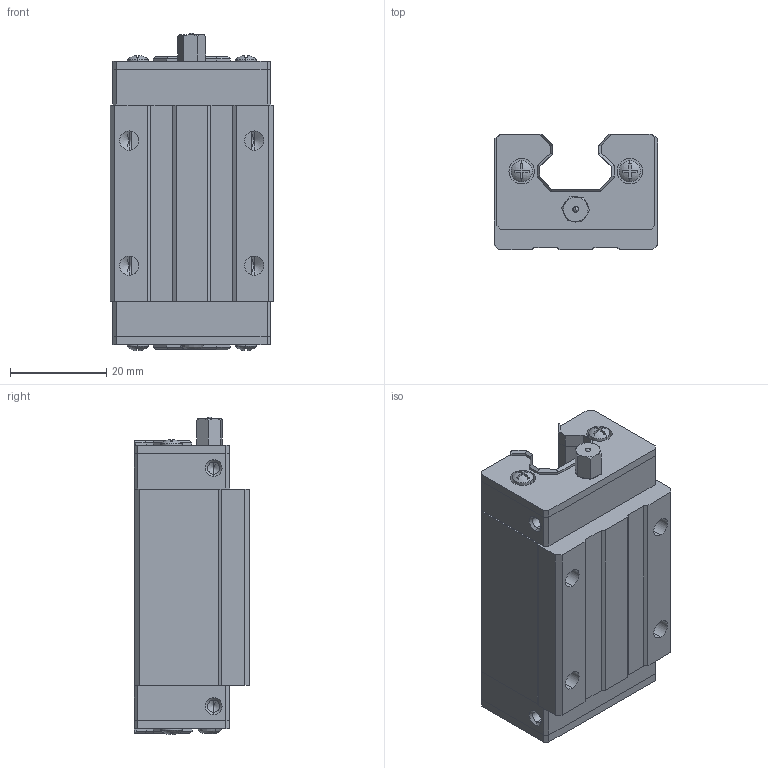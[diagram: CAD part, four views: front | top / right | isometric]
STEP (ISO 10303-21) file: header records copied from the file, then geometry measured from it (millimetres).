
FILE_DESCRIPTION (( 'STEP AP214' ), '1' );
FILE_NAME ('TRH15-B_HGH15CA.STEP', '2020-10-13T13:20:11', ( '' ), ( '' ), 'SwSTEP 2.0', 'SolidWorks 2018', '' );
FILE_SCHEMA (( 'AUTOMOTIVE_DESIGN' ));
Length unit declared in the file: millimetre
Products named in the file (7): TRH15-B_HGH15CA-6_M3*4; TRH15-B_HGH15CA-5_M3*6; TRH15-B_HGH15CA-4; TRH15-B_HGH15CA-3; TRH15-B_HGH15CA-2; TRH15-B_HGH15CA-1; TRH15-B_HGH15CA
Assembly tree (10 placements, depth 2):
  TRH15-B_HGH15CA
    TRH15-B_HGH15CA-1
    TRH15-B_HGH15CA-2
    TRH15-B_HGH15CA-3  x2
    TRH15-B_HGH15CA-4
    TRH15-B_HGH15CA-5_M3*6  x4
    TRH15-B_HGH15CA-6_M3*4
Bounding box: 34.1 x 24 x 66.08 mm (x, y, z)
Volume: 36101.3 mm3; surface area: 18904.7 mm2
Topology: 11 solids, 11 shells, 468 faces, 1210 edges, 758 vertices
Faces by surface type: plane 301, cylinder 66, cone 55, bspline 34, sphere 10, torus 2
Entity records: 14091 total; most frequent: CARTESIAN_POINT 3998, ORIENTED_EDGE 1758, DIRECTION 1588, EDGE_CURVE 879, VECTOR 642, LINE 642, VERTEX_POINT 567, AXIS2_PLACEMENT_3D 473
